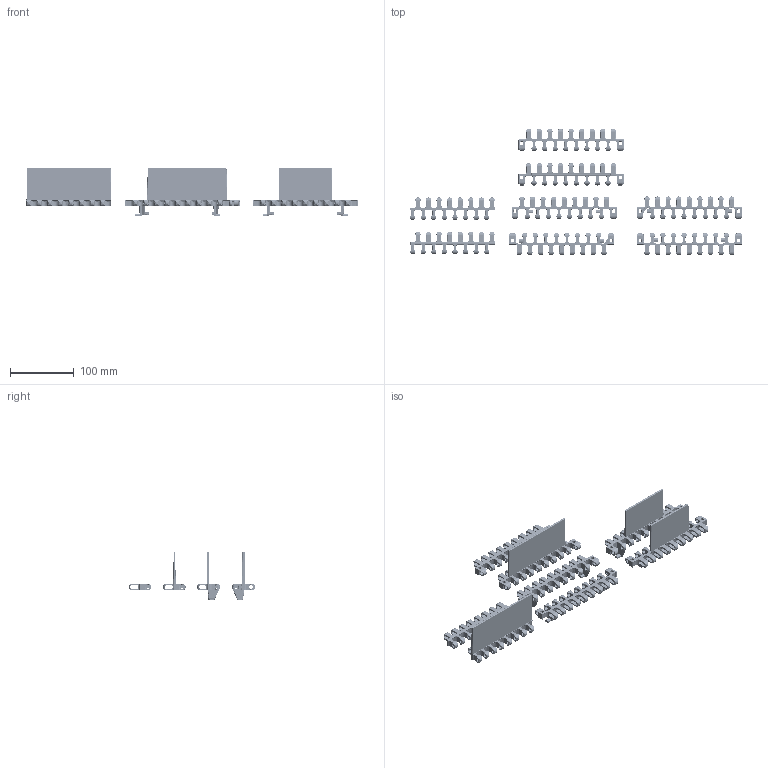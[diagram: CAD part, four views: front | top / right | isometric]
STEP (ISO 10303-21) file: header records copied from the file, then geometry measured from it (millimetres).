
FILE_DESCRIPTION(/* description */ (''),/* implementation_level */ '2;1');
FILE_NAME(/* name */ 'HS-500B.stp',/* time_stamp */ '2022-11-30T08:32:30+08:00',/* author */ (''),/* organization */ (''),/* preprocessor_version */ 'ST-DEVELOPER v15',/* originating_system */ 'SIEMENS PLM Software NX 8.5',/* authorisation */ '');
FILE_SCHEMA (('AP203_CONFIGURATION_CONTROLLED_3D_DESIGN_OF_MECHANICAL_PARTS_AND_ASSEMBLIES_MIM_LF { 1 0 10303 403 2 1 2}'));
Products named in the file (1): Admi136C78604x6y
Bounding box: 520.2 x 198.55 x 76.16 mm (x, y, z)
Volume: 213395.6 mm3; surface area: 167723.6 mm2
Topology: 8 solids, 8 shells, 14048 faces, 34979 edges, 20195 vertices
Faces by surface type: bspline 4763, cylinder 2559, plane 2160, cone 1890, torus 1686, extrusion 818, sphere 172
Full cylindrical faces by diameter (mm): 5.476 x10
Entity records: 629447 total; most frequent: CARTESIAN_POINT 248157, ORIENTED_EDGE 68896, DIRECTION 53836, EDGE_CURVE 34448, AXIS2_PLACEMENT_3D 22027, VERTEX_POINT 20184, EDGE_LOOP 14116, ADVANCED_FACE 14048
